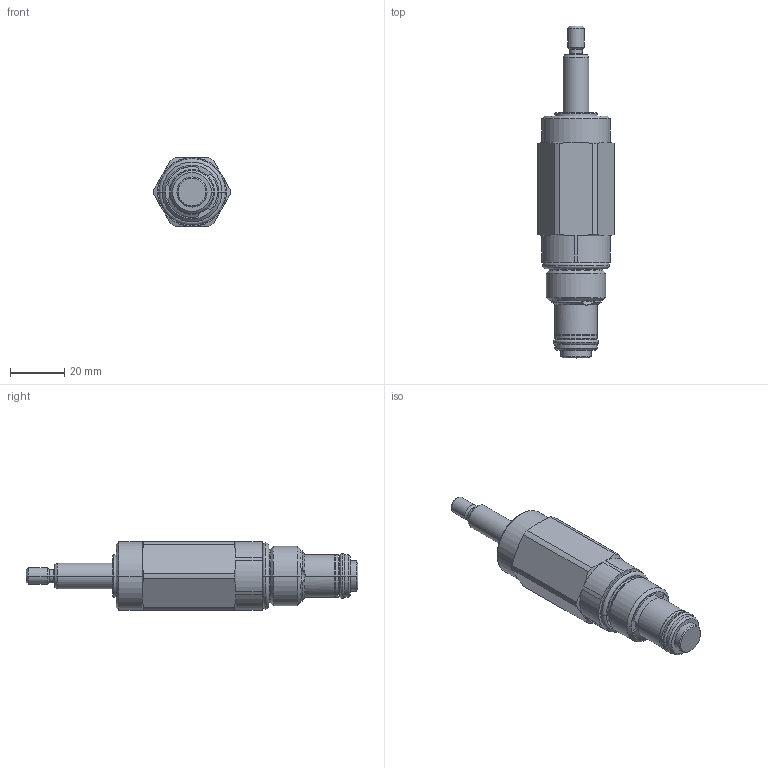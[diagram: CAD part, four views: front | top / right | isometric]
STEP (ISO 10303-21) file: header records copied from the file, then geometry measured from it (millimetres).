
FILE_DESCRIPTION((''),'2;1');
FILE_NAME('HP10-20T','2009-02-09T',('jcs'),(''),'PRO/ENGINEER BY PARAMETRIC TECHNOLOGY CORPORATION, 2008010','PRO/ENGINEER BY PARAMETRIC TECHNOLOGY CORPORATION, 2008010','');
FILE_SCHEMA(('CONFIG_CONTROL_DESIGN'));
Length unit declared in the file: inch
Products named in the file (1): HP10-20T
Bounding box: 28.19 x 122.66 x 25.36 mm (x, y, z)
Volume: 40218.7 mm3; surface area: 9570.3 mm2
Topology: 3 solids, 3 shells, 131 faces, 298 edges, 176 vertices
Faces by surface type: cylinder 46, cone 39, revolution 16, plane 15, torus 12, sphere 3
Entity records: 4163 total; most frequent: CARTESIAN_POINT 1174, DIRECTION 642, ORIENTED_EDGE 596, EDGE_CURVE 298, AXIS2_PLACEMENT_3D 269, VERTEX_POINT 176, CIRCLE 154, EDGE_LOOP 138
